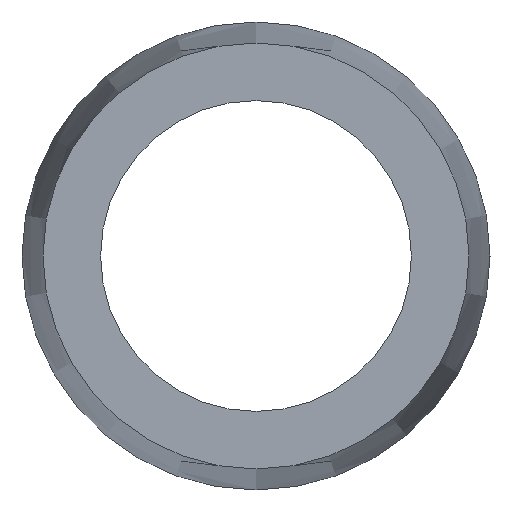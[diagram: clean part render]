
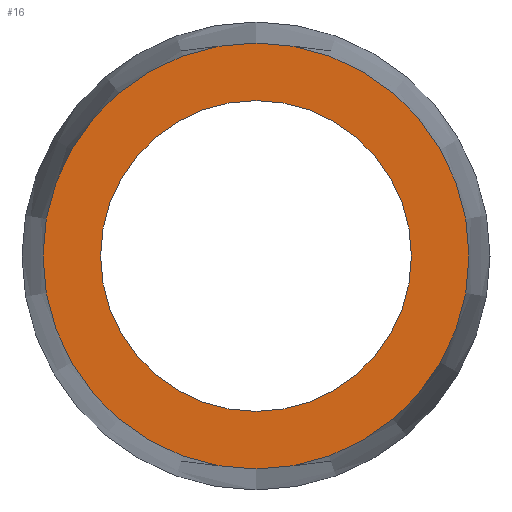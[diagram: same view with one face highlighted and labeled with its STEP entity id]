
A CAD part, left-side view. The second image highlights one B-rep face of the part: STEP entity #16.
In plain terms, the highlighted planar face has unit normal (-1, 0, 0).
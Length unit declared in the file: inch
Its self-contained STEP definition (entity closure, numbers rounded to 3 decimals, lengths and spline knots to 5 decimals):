
#6 = CARTESIAN_POINT ( 'NONE',  ( 0., 0., 0.18432 ) ) ;
#16 = ADVANCED_FACE ( 'NONE', ( #328, #293 ), #297, .F. ) ;
#17 = VERTEX_POINT ( 'NONE', #49 ) ;
#19 = CARTESIAN_POINT ( 'NONE',  ( 0., 0., 0. ) ) ;
#34 = DIRECTION ( 'NONE',  ( -1., 0., 0. ) ) ;
#40 = CIRCLE ( 'NONE', #151, 0.1345 ) ;
#43 = VERTEX_POINT ( 'NONE', #131 ) ;
#49 = CARTESIAN_POINT ( 'NONE',  ( 0., 0., -0.18432 ) ) ;
#61 = VERTEX_POINT ( 'NONE', #100 ) ;
#69 = EDGE_CURVE ( 'NONE', #61, #43, #40, .T. ) ;
#76 = DIRECTION ( 'NONE',  ( -1., 0., 0. ) ) ;
#85 = EDGE_CURVE ( 'NONE', #177, #17, #212, .T. ) ;
#88 = EDGE_LOOP ( 'NONE', ( #149, #159 ) ) ;
#93 = EDGE_LOOP ( 'NONE', ( #277, #185 ) ) ;
#100 = CARTESIAN_POINT ( 'NONE',  ( 0., 0., -0.1345 ) ) ;
#105 = DIRECTION ( 'NONE',  ( 0., 0., 1. ) ) ;
#110 = CARTESIAN_POINT ( 'NONE',  ( 0., 0., 0. ) ) ;
#122 = DIRECTION ( 'NONE',  ( 0., 0., 1. ) ) ;
#127 = AXIS2_PLACEMENT_3D ( 'NONE', #333, #332, #164 ) ;
#131 = CARTESIAN_POINT ( 'NONE',  ( 0., 0., 0.1345 ) ) ;
#137 = DIRECTION ( 'NONE',  ( -1., 0., 0. ) ) ;
#149 = ORIENTED_EDGE ( 'NONE', *, *, #198, .F. ) ;
#151 = AXIS2_PLACEMENT_3D ( 'NONE', #19, #76, #105 ) ;
#159 = ORIENTED_EDGE ( 'NONE', *, *, #69, .F. ) ;
#164 = DIRECTION ( 'NONE',  ( 0., 0., -1. ) ) ;
#173 = AXIS2_PLACEMENT_3D ( 'NONE', #110, #137, #280 ) ;
#177 = VERTEX_POINT ( 'NONE', #6 ) ;
#184 = AXIS2_PLACEMENT_3D ( 'NONE', #311, #34, #233 ) ;
#185 = ORIENTED_EDGE ( 'NONE', *, *, #85, .T. ) ;
#198 = EDGE_CURVE ( 'NONE', #43, #61, #296, .T. ) ;
#212 = CIRCLE ( 'NONE', #173, 0.18432 ) ;
#233 = DIRECTION ( 'NONE',  ( 0., 0., 1. ) ) ;
#255 = EDGE_CURVE ( 'NONE', #17, #177, #270, .T. ) ;
#259 = DIRECTION ( 'NONE',  ( -1., 0., 0. ) ) ;
#270 = CIRCLE ( 'NONE', #298, 0.18432 ) ;
#277 = ORIENTED_EDGE ( 'NONE', *, *, #255, .T. ) ;
#280 = DIRECTION ( 'NONE',  ( 0., 0., 1. ) ) ;
#293 = FACE_OUTER_BOUND ( 'NONE', #93, .T. ) ;
#296 = CIRCLE ( 'NONE', #184, 0.1345 ) ;
#297 = PLANE ( 'NONE',  #127 ) ;
#298 = AXIS2_PLACEMENT_3D ( 'NONE', #339, #259, #122 ) ;
#311 = CARTESIAN_POINT ( 'NONE',  ( 0., 0., 0. ) ) ;
#328 = FACE_BOUND ( 'NONE', #88, .T. ) ;
#332 = DIRECTION ( 'NONE',  ( 1., 0., 0. ) ) ;
#333 = CARTESIAN_POINT ( 'NONE',  ( 0., 0.18432, 0. ) ) ;
#339 = CARTESIAN_POINT ( 'NONE',  ( 0., 0., 0. ) ) ;
